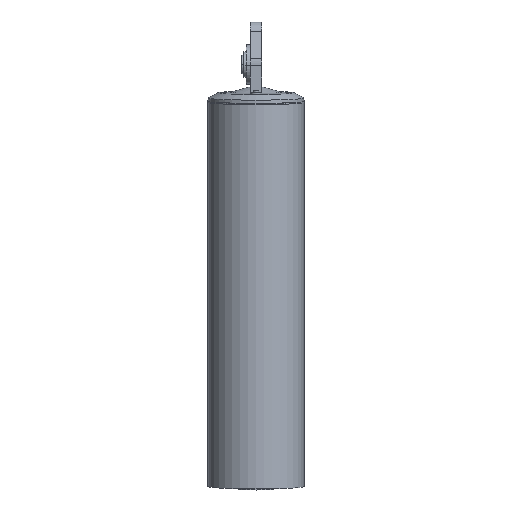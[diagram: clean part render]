
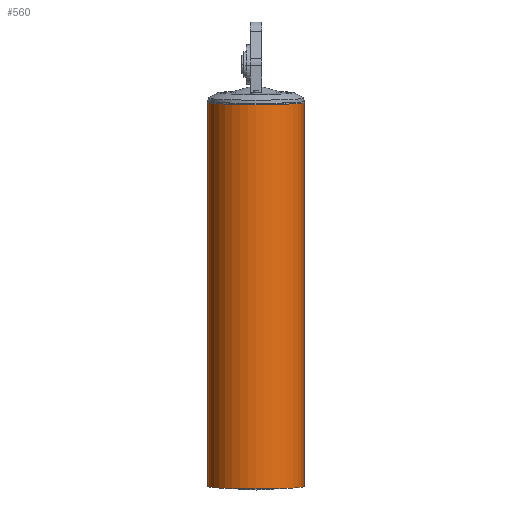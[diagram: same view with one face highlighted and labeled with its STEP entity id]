
A CAD part, left-side view. The second image highlights one B-rep face of the part: STEP entity #560.
In plain terms, the highlighted cylindrical face has radius 130 mm (diameter 260 mm), a partial arc.
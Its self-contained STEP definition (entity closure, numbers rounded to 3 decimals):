
#95 = VECTOR ( 'NONE', #796, 1000. ) ;
#105 = VERTEX_POINT ( 'NONE', #1280 ) ;
#113 = LINE ( 'NONE', #824, #95 ) ;
#127 = VECTOR ( 'NONE', #984, 1000. ) ;
#129 = LINE ( 'NONE', #988, #127 ) ;
#183 = CIRCLE ( 'NONE', #861, 130. ) ;
#370 = CARTESIAN_POINT ( 'NONE',  ( 424.675, 245., 2477.607 ) ) ;
#442 = EDGE_LOOP ( 'NONE', ( #922, #612, #839, #1588 ) ) ;
#526 = DIRECTION ( 'NONE',  ( 0., -1., 0. ) ) ;
#529 = DIRECTION ( 'NONE',  ( 0.046, 0., -0.999 ) ) ;
#538 = CARTESIAN_POINT ( 'NONE',  ( 424.675, 375., 2477.607 ) ) ;
#560 = ADVANCED_FACE ( 'NONE', ( #1002 ), #1261, .T. ) ;
#612 = ORIENTED_EDGE ( 'NONE', *, *, #1598, .T. ) ;
#796 = DIRECTION ( 'NONE',  ( -0.046, 0., 0.999 ) ) ;
#811 = AXIS2_PLACEMENT_3D ( 'NONE', #538, #529, #526 ) ;
#824 = CARTESIAN_POINT ( 'NONE',  ( 472.181, 505., 1437.191 ) ) ;
#839 = ORIENTED_EDGE ( 'NONE', *, *, #1717, .T. ) ;
#861 = AXIS2_PLACEMENT_3D ( 'NONE', #1167, #1164, #1162 ) ;
#921 = CARTESIAN_POINT ( 'NONE',  ( 472.181, 375., 1437.191 ) ) ;
#922 = ORIENTED_EDGE ( 'NONE', *, *, #1571, .F. ) ;
#939 = DIRECTION ( 'NONE',  ( 0., 1., 0. ) ) ;
#949 = DIRECTION ( 'NONE',  ( -0.046, 0., 0.999 ) ) ;
#984 = DIRECTION ( 'NONE',  ( -0.046, 0., 0.999 ) ) ;
#988 = CARTESIAN_POINT ( 'NONE',  ( 472.181, 245., 1437.191 ) ) ;
#1002 = FACE_OUTER_BOUND ( 'NONE', #442, .T. ) ;
#1143 = CARTESIAN_POINT ( 'NONE',  ( 472.181, 245., 1437.191 ) ) ;
#1162 = DIRECTION ( 'NONE',  ( 0., -1., 0. ) ) ;
#1164 = DIRECTION ( 'NONE',  ( 0.046, 0., -0.999 ) ) ;
#1167 = CARTESIAN_POINT ( 'NONE',  ( 472.181, 375., 1437.191 ) ) ;
#1197 = AXIS2_PLACEMENT_3D ( 'NONE', #921, #949, #939 ) ;
#1261 = CYLINDRICAL_SURFACE ( 'NONE', #1197, 130. ) ;
#1265 = VERTEX_POINT ( 'NONE', #1868 ) ;
#1280 = CARTESIAN_POINT ( 'NONE',  ( 472.181, 505., 1437.191 ) ) ;
#1425 = CIRCLE ( 'NONE', #811, 130. ) ;
#1571 = EDGE_CURVE ( 'NONE', #1587, #105, #183, .T. ) ;
#1587 = VERTEX_POINT ( 'NONE', #1143 ) ;
#1588 = ORIENTED_EDGE ( 'NONE', *, *, #1616, .F. ) ;
#1598 = EDGE_CURVE ( 'NONE', #1587, #1803, #129, .T. ) ;
#1616 = EDGE_CURVE ( 'NONE', #105, #1265, #113, .T. ) ;
#1717 = EDGE_CURVE ( 'NONE', #1803, #1265, #1425, .T. ) ;
#1803 = VERTEX_POINT ( 'NONE', #370 ) ;
#1868 = CARTESIAN_POINT ( 'NONE',  ( 424.675, 505., 2477.607 ) ) ;
